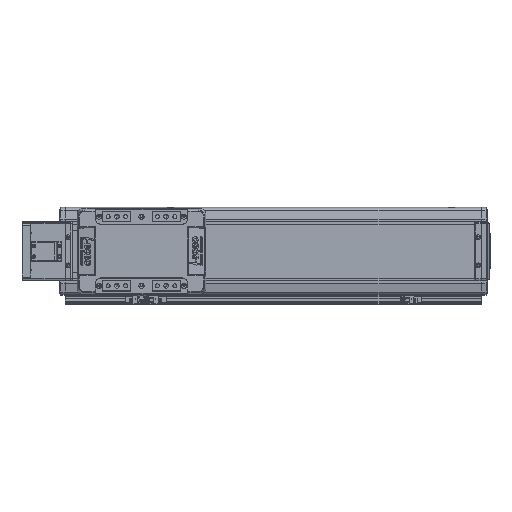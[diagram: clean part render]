
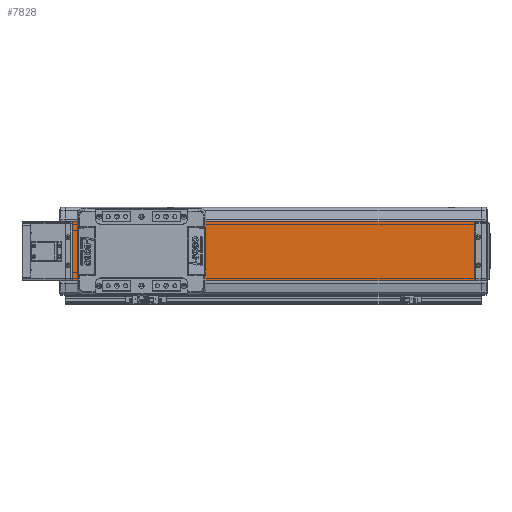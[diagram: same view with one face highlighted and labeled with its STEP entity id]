
A CAD part, top view. The second image highlights one B-rep face of the part: STEP entity #7828.
In plain terms, the highlighted planar face has unit normal (0, 0, 1).
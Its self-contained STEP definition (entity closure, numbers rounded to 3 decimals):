
#7828=ADVANCED_FACE('',(#16933),#16934,.F.);
#16933=FACE_OUTER_BOUND('',#29005,.T.);
#16934=PLANE('',#29006);
#29005=EDGE_LOOP('',(#51006,#51007,#51008,#51009));
#29006=AXIS2_PLACEMENT_3D('',#51010,#51011,#51012);
#51006=ORIENTED_EDGE('',*,*,#73106,.F.);
#51007=ORIENTED_EDGE('',*,*,#73107,.F.);
#51008=ORIENTED_EDGE('',*,*,#73108,.F.);
#51009=ORIENTED_EDGE('',*,*,#67506,.T.);
#51010=CARTESIAN_POINT('',(0.,0.,26.));
#51011=DIRECTION('',(0.,0.,-1.0));
#51012=DIRECTION('',(0.,1.0,0.));
#67506=EDGE_CURVE('',#81594,#81591,#81595,.T.);
#73106=EDGE_CURVE('',#89975,#81591,#89976,.T.);
#73107=EDGE_CURVE('',#89977,#89975,#89978,.T.);
#73108=EDGE_CURVE('',#81594,#89977,#89979,.T.);
#81591=VERTEX_POINT('',#101083);
#81594=VERTEX_POINT('',#101087);
#81595=LINE('',#101088,#101089);
#89975=VERTEX_POINT('',#113011);
#89976=LINE('',#113012,#113013);
#89977=VERTEX_POINT('',#113014);
#89978=LINE('',#113015,#113016);
#89979=LINE('',#113017,#113018);
#101083=CARTESIAN_POINT('',(710.0,-50.,26.));
#101087=CARTESIAN_POINT('',(0.,-50.,26.));
#101088=CARTESIAN_POINT('',(0.,-50.,26.));
#101089=VECTOR('',#122267,10.0);
#113011=CARTESIAN_POINT('',(710.0,50.,26.));
#113012=CARTESIAN_POINT('',(710.0,-50.,26.));
#113013=VECTOR('',#130222,10.0);
#113014=CARTESIAN_POINT('',(0.,50.0,26.));
#113015=CARTESIAN_POINT('',(0.,50.0,26.));
#113016=VECTOR('',#130223,10.0);
#113017=CARTESIAN_POINT('',(0.,-50.,26.));
#113018=VECTOR('',#130224,10.0);
#122267=DIRECTION('',(1.0,0.,0.));
#130222=DIRECTION('',(0.,-1.0,0.));
#130223=DIRECTION('',(1.0,0.,0.));
#130224=DIRECTION('',(0.,1.0,0.));
